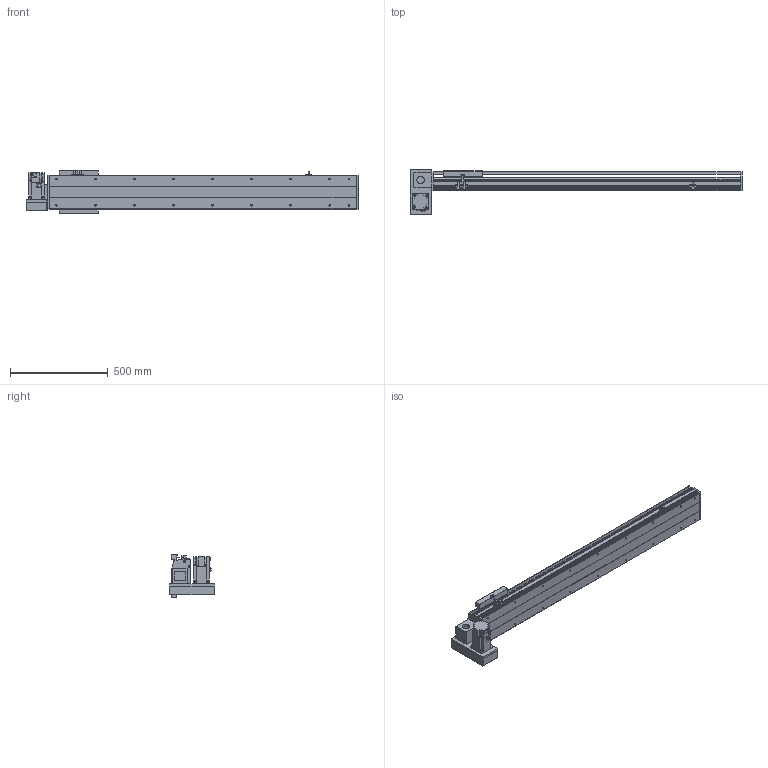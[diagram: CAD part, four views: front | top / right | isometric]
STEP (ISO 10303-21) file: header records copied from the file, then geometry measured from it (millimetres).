
FILE_DESCRIPTION(/* description */ ('STEP AP214'),/* implementation_level */ '2;1');
FILE_NAME(/* name */ 'PBS200-P40-S1200-LD-T75-C1-N(0)',/* time_stamp */ '2022-06-11T08:44:34+02:00',/* author */ ('License CC BY-ND 4.0'),/* organization */ ('CADENAS'),/* preprocessor_version */ 'ST-DEVELOPER v18.102',/* originating_system */ 'PARTsolutions',/* authorisation */ ' ');
FILE_SCHEMA (('AUTOMOTIVE_DESIGN {1 0 10303 214 3 1 1}'));
Length unit declared in the file: millimetre
Products named in the file (7): PBS200-P40-S1200-LD-T75-C1-N(0); PBS200_sensor; PBS200_plant; PBS200_sliser; T75-p1; PBS200T-LD_motors; PBS200-S1200()_body
Assembly tree (8 placements, depth 2):
  PBS200-P40-S1200-LD-T75-C1-N(0)
    PBS200_sensor  x3
    PBS200_plant
    PBS200_sliser
    T75-p1
    PBS200T-LD_motors
    PBS200-S1200()_body
Bounding box: 1700 x 230 x 221 mm (x, y, z)
Volume: 12486026.1 mm3; surface area: 2016539 mm2
Topology: 8 solids, 8 shells, 926 faces, 2384 edges, 1554 vertices
Faces by surface type: plane 576, cylinder 300, cone 50
Full cylindrical faces by diameter (mm): 2.459 x6, 3.242 x4, 4.5 x6, 4.917 x4, 5 x6, 6 x7, 6.6 x8, 6.647 x22, 8 x6, 10 x4, 12 x8, 38 x2, 40 x1, 70 x1
Entity records: 24701 total; most frequent: DIRECTION 4351, CARTESIAN_POINT 4210, ORIENTED_EDGE 3994, EDGE_CURVE 1997, AXIS2_PLACEMENT_3D 1519, VERTEX_POINT 1378, LINE 1313, VECTOR 1313
